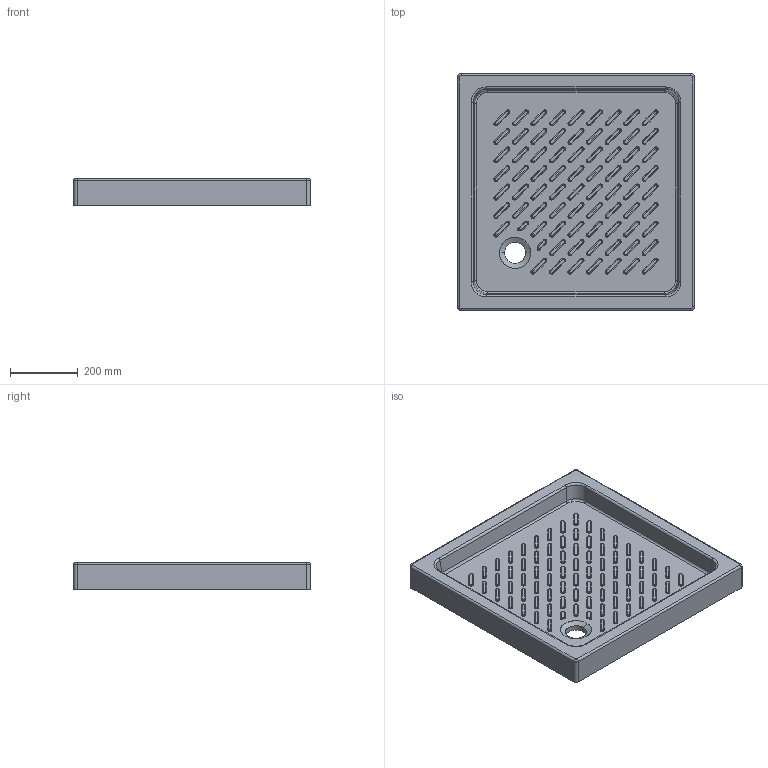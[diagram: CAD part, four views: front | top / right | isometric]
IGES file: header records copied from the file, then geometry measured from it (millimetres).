
Start section: START RECORD GO HERE.
Global section: file name: 1007_3D.igs; native system: DASSAULT SYSTEMES CATIA V5 R19 - www.3ds.com; preprocessor: CATIA Version 5 Release 19 SP 5 ; author: gioge; organization: LAPTOP-G94B6G74; date: 20201022.151547; units: millimetre
Bounding box: 700 x 700 x 80 mm (x, y, z)
Surface area: 838750.9 mm2 (no closed solid volume)
Topology: 0 solids, 0 shells, 750 faces, 3326 edges, 3326 vertices
Faces by surface type: revolution 650, plane 84, bspline 16
